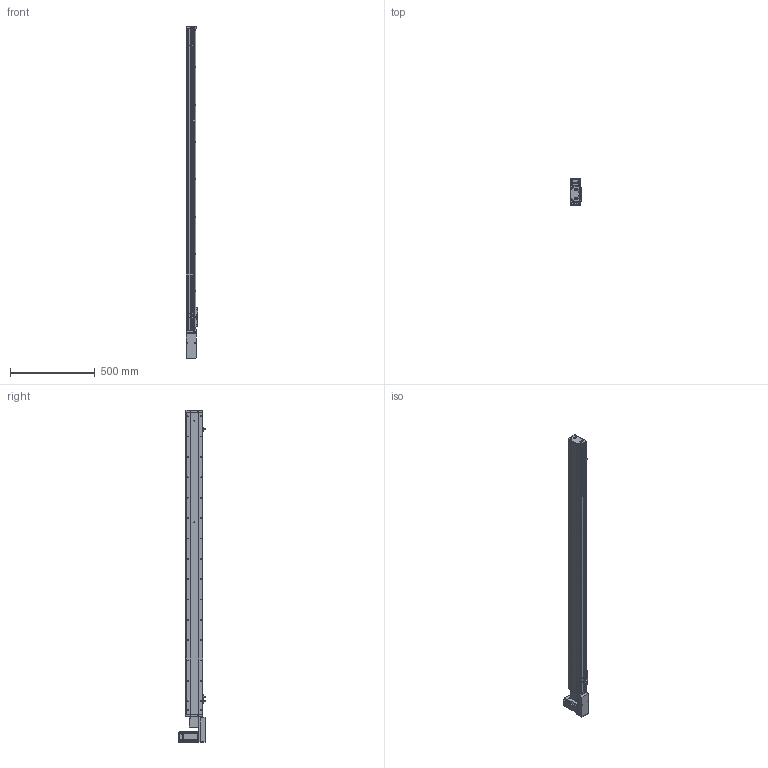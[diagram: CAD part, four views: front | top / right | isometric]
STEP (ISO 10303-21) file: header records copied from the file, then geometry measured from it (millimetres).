
FILE_DESCRIPTION (( 'STEP AP214' ), '1' );
FILE_NAME ('KSD100B-S1600-MRB-CR.STEP', '2019-09-07T09:26:49', ( '微软用户' ), ( '微软中国' ), 'SwSTEP 2.0', 'SolidWorks 2014', '' );
FILE_SCHEMA (( 'AUTOMOTIVE_DESIGN' ));
Length unit declared in the file: millimetre
Products named in the file (15): MHMD042G1CA_2_03; 100宽马达安装板连板上下折丝杆同步带; U倰嫖萇EEㄜSX672; 悵誘欶奻狟殏; 感应片100宽全封闭; 100宽马达安装板同步带右; 100遵鎮湛假蚾啣蜊; 100宽端板同步带全封闭; 100宽滚珠螺姆安装板1防护罩; 100宽滚珠螺姆安装板1; 100遵裔啣揤啣; 100遵裔啣1600俴最; 100宽侧板1600行程同步带; 100宽底板全封闭1600行程同步带; KSD100B-S1600-MRB-CR
Assembly tree (18 placements, depth 2):
  KSD100B-S1600-MRB-CR
    100宽底板全封闭1600行程同步带
    100宽侧板1600行程同步带  x2
    100遵裔啣1600俴最
    100遵裔啣揤啣  x2
    100宽滚珠螺姆安装板1
    100宽滚珠螺姆安装板1防护罩
    100宽端板同步带全封闭
    100遵鎮湛假蚾啣蜊
    100宽马达安装板同步带右
    感应片100宽全封闭
    U倰嫖萇EEㄜSX672  x3
    100宽马达安装板连板上下折丝杆同步带
    悵誘欶奻狟殏
    MHMD042G1CA_2_03
Bounding box: 70 x 156.2 x 1957 mm (x, y, z)
Volume: 3572317.6 mm3; surface area: 1559653.9 mm2
Topology: 17 solids, 18 shells, 1993 faces, 5584 edges, 3525 vertices
Faces by surface type: cylinder 913, plane 741, cone 319, bspline 20
Entity records: 71016 total; most frequent: CARTESIAN_POINT 11058, DIRECTION 9726, ORIENTED_EDGE 8924, EDGE_CURVE 4534, AXIS2_PLACEMENT_3D 3563, VERTEX_POINT 3003, VECTOR 2600, LINE 2600
